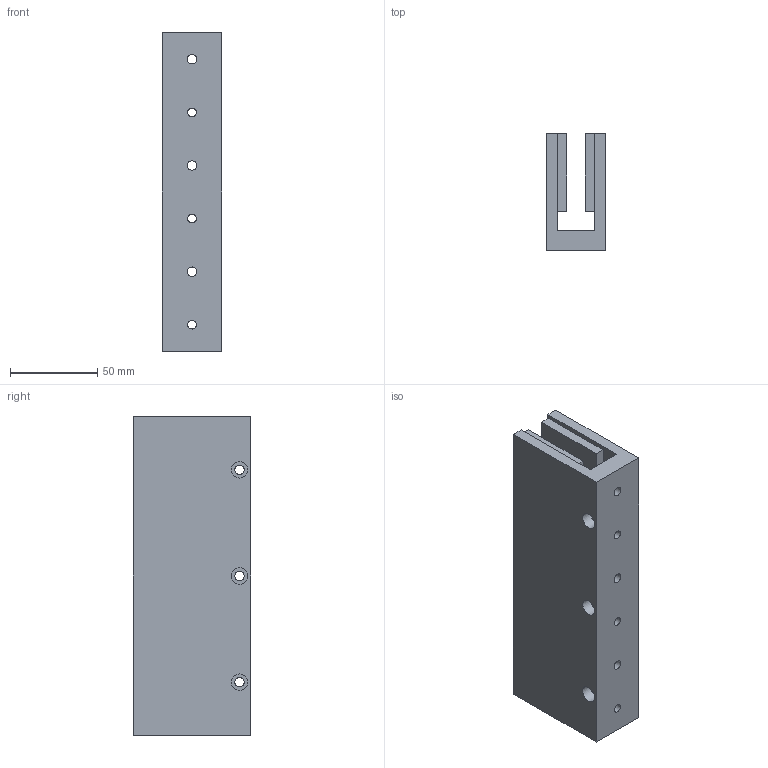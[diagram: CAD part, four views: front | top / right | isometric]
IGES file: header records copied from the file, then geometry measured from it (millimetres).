
Global section: file name: No Iges File Name specified; native system: Autodesk Inventor 2012; preprocessor: AutoDesk Inventor Iges Exporter R2012; author: je17857; date: 20120511.155301; units: inch
Bounding box: 34.29 x 67.31 x 182.63 mm (x, y, z)
Volume: 269293.1 mm3; surface area: 72173.7 mm2
Topology: 1 solids, 1 shells, 97 faces, 225 edges, 151 vertices
Faces by surface type: plane 79, revolution 18
